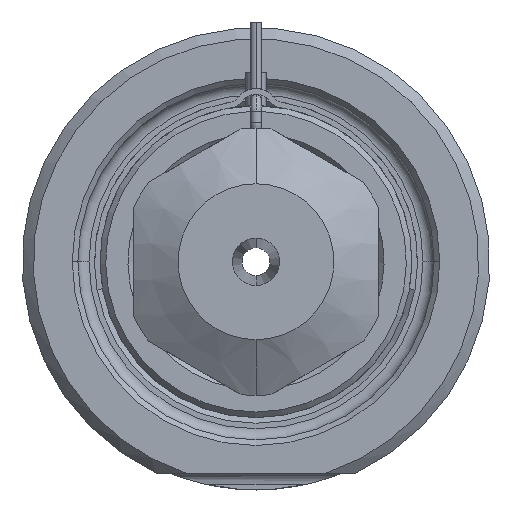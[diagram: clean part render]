
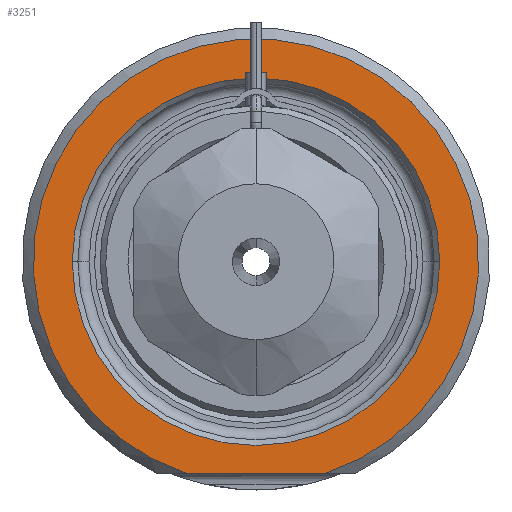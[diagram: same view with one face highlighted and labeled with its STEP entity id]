
A CAD part, front view. The second image highlights one B-rep face of the part: STEP entity #3251.
In plain terms, the highlighted planar face has unit normal (0, -1, 0).
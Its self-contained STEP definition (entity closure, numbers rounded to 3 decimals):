
#1=DIRECTION('',(1.,0.,0.));
#2=VECTOR('',#1,12.49);
#3=CARTESIAN_POINT('',(-6.245,0.,-19.));
#4=LINE('',#3,#2);
#5=CARTESIAN_POINT('',(0.,0.,0.));
#6=DIRECTION('',(0.,1.,0.));
#7=DIRECTION('',(-1.,0.,0.));
#8=AXIS2_PLACEMENT_3D('',#5,#6,#7);
#10=CARTESIAN_POINT('',(0.,0.,0.));
#11=DIRECTION('',(0.,1.,0.));
#12=DIRECTION('',(1.,0.,0.));
#13=AXIS2_PLACEMENT_3D('',#10,#11,#12);
#119=CARTESIAN_POINT('',(0.,0.,0.));
#120=DIRECTION('',(0.,-1.,0.));
#121=DIRECTION('',(0.312,0.,-0.95));
#122=AXIS2_PLACEMENT_3D('',#119,#120,#121);
#2704=CARTESIAN_POINT('',(-16.5,0.,0.));
#2705=CARTESIAN_POINT('',(16.5,0.,0.));
#2706=VERTEX_POINT('',#2704);
#2707=VERTEX_POINT('',#2705);
#2744=CARTESIAN_POINT('',(-6.245,0.,-19.));
#2745=CARTESIAN_POINT('',(6.245,0.,-19.));
#2746=VERTEX_POINT('',#2744);
#2747=VERTEX_POINT('',#2745);
#3234=CARTESIAN_POINT('',(0.,0.,0.));
#3235=DIRECTION('',(0.,-1.,0.));
#3236=DIRECTION('',(1.,0.,0.));
#3237=AXIS2_PLACEMENT_3D('',#3234,#3235,#3236);
#3238=PLANE('',#3237);
#3240=ORIENTED_EDGE('',*,*,#3239,.F.);
#3242=ORIENTED_EDGE('',*,*,#3241,.F.);
#3243=EDGE_LOOP('',(#3240,#3242));
#3244=FACE_OUTER_BOUND('',#3243,.F.);
#3246=ORIENTED_EDGE('',*,*,#3245,.F.);
#3248=ORIENTED_EDGE('',*,*,#3247,.F.);
#3249=EDGE_LOOP('',(#3246,#3248));
#3250=FACE_BOUND('',#3249,.F.);
#3251=ADVANCED_FACE('',(#3244,#3250),#3238,.T.);
#9=CIRCLE('',#8,16.5);
#14=CIRCLE('',#13,16.5);
#123=CIRCLE('',#122,20.);
#3239=EDGE_CURVE('',#2746,#2747,#4,.T.);
#3241=EDGE_CURVE('',#2747,#2746,#123,.T.);
#3245=EDGE_CURVE('',#2706,#2707,#9,.T.);
#3247=EDGE_CURVE('',#2707,#2706,#14,.T.);
